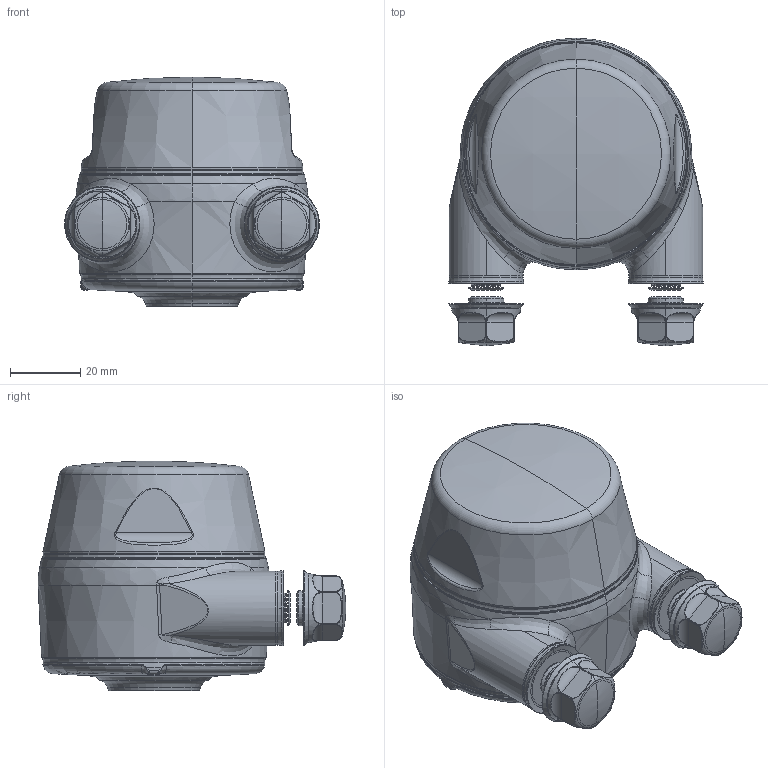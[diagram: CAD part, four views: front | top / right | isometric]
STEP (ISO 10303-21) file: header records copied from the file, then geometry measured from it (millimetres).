
FILE_DESCRIPTION (( 'STEP AP203' ), '1' );
FILE_NAME ('XBTBC52(Blue)-CSB2500(Front)-CL(Blue)-OS(Blue)-BXHM1010_Shell.step', '2020-08-05T23:39:24', ( '' ), ( '' ), 'SwSTEP 2.0', 'SolidWorks 2019', '' );
FILE_SCHEMA (( 'CONFIG_CONTROL_DESIGN' ));
Length unit declared in the file: millimetre
Products named in the file (1): XBTBC52(Blue)-CSB2500(Front)-CL(Blue)-OS(Blue)-BXHM1010_Shell
Bounding box: 72.4 x 87.39 x 65.25 mm (x, y, z)
Surface area: 31560.8 mm2 (no closed solid volume)
Topology: 0 solids, 26 shells, 411 faces, 1235 edges, 824 vertices
Faces by surface type: bspline 104, torus 102, cylinder 85, cone 73, plane 37, sphere 10
Entity records: 21258 total; most frequent: CARTESIAN_POINT 10902, DIRECTION 2142, ORIENTED_EDGE 2060, EDGE_CURVE 1235, AXIS2_PLACEMENT_3D 958, VERTEX_POINT 824, CIRCLE 650, EDGE_LOOP 435
